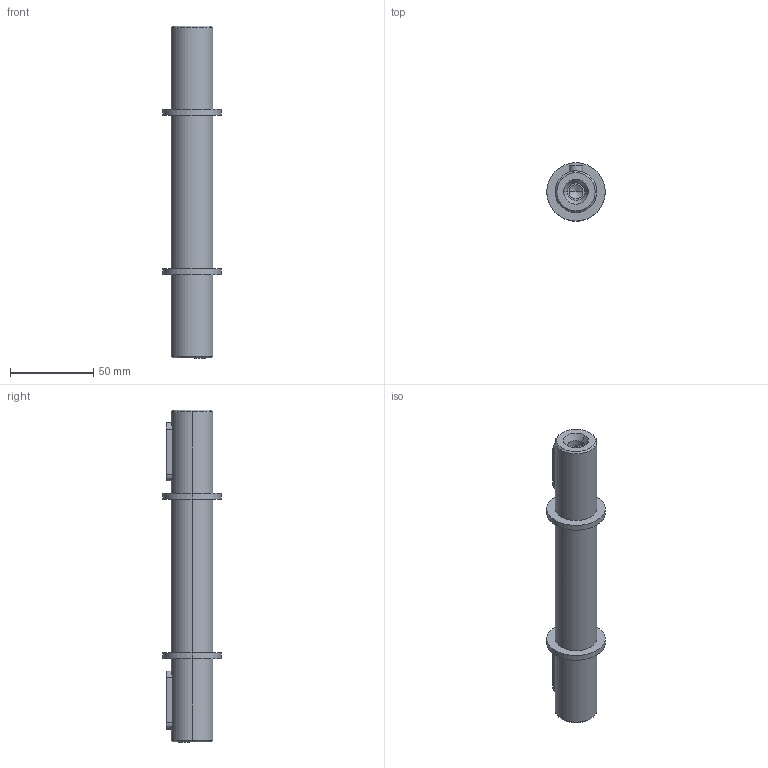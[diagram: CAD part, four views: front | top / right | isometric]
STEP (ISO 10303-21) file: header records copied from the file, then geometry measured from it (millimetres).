
FILE_DESCRIPTION(/* description */ (''),/* implementation_level */ '2;1');
FILE_NAME(/* name */ '5_ALBERO LENTO BISPORGENTE NMRV050',/* time_stamp */ '2025-10-09T14:38:36+02:00',/* author */ (''),/* organization */ (''),/* preprocessor_version */ 'ST-DEVELOPER v19.2',/* originating_system */ 'Rhino 8.23',/* authorisation */ '');
FILE_SCHEMA (('CONFIG_CONTROL_DESIGN'));
Length unit declared in the file: millimetre
Products named in the file (2): Document; AL 050-25(2-0)
Bounding box: 35 x 35 x 199 mm (x, y, z)
Volume: 98514.6 mm3; surface area: 20796.7 mm2
Topology: 1 solids, 1 shells, 48 faces, 103 edges, 63 vertices
Faces by surface type: cylinder 22, plane 14, bspline 12
Entity records: 1605 total; most frequent: CARTESIAN_POINT 494, ORIENTED_EDGE 198, DIRECTION 142, EDGE_CURVE 99, AXIS2_PLACEMENT_3D 89, VERTEX_POINT 63, EDGE_LOOP 58, B_SPLINE_CURVE_WITH_KNOTS 50
